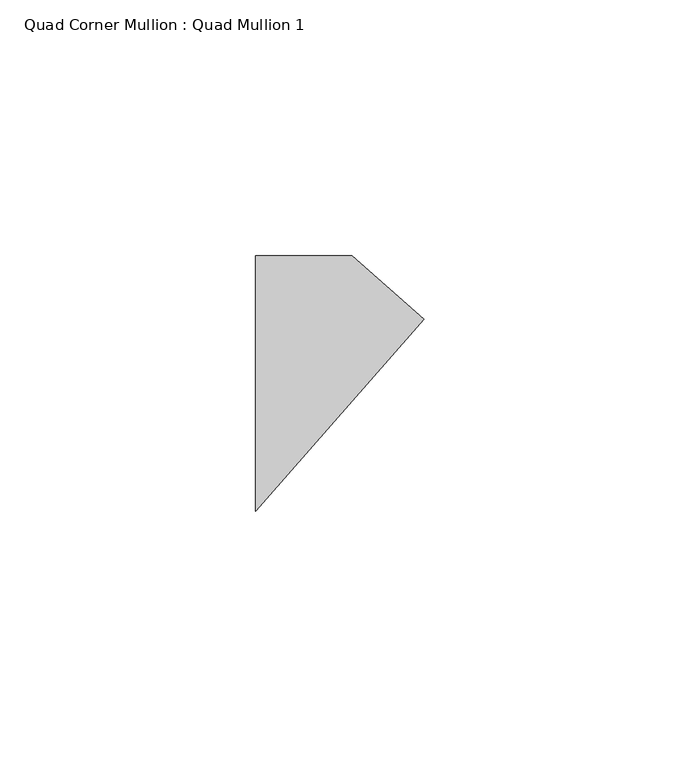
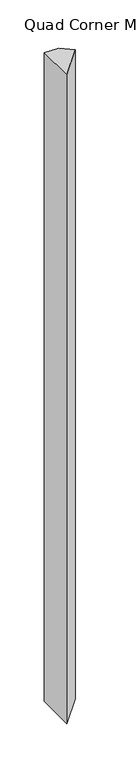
"""IFC4 building model written with IfcOpenShell, lengths in millimetres: member geometry, Quad Corner Mullion : Quad Mullion 1."""

from ifc_helpers import new_model, si_unit, frame, origin, place, context, project, spatial, polyline, outline, extrude, source, transform, mapped, element, save


def quad_corner_mullion_quad_mullion_1_33c8872f(model_context):
    return source(origin(), model_context, "Body", "SweptSolid", [
        extrude(outline(polyline([(23.5710612, 12.5734516), (-9.417357, -25.0), (-9.417357, 25.0), (9.417357, 25.0), (23.5710612, 12.5734516)])), frame((0.0, 0.0, -890.0), z_axis=(0.0, 0.0, 1.0), x_axis=(1.0, 0.0, 0.0)), (0.0, 0.0, 1.0), 890.0),
    ])


if __name__ == "__main__":
    model = new_model("IFC4")
    model_context = context("Model", 3, world=origin())
    ifc_project = project(units=[si_unit("LENGTHUNIT", "METRE", prefix="MILLI")], contexts=[model_context])
    site = spatial("IfcSite", under=ifc_project)
    building = spatial("IfcBuilding", under=site)
    placement = place(None, origin())
    quad_corner_mullion_quad_mullion_1_shape = quad_corner_mullion_quad_mullion_1_33c8872f(model_context)
    element("IfcMember", 1, ObjectType="Quad Corner Mullion : Quad Mullion 1", at=placement, inside=building, context=model_context, shape_type="MappedRepresentation", body=[
        mapped(quad_corner_mullion_quad_mullion_1_shape, transform((0.0, 0.0, 0.0), x_axis=(1.0, 0.0, 0.0), y_axis=(0.0, 1.0, 0.0), z_axis=(0.0, 0.0, 1.0))),
    ])
    save(model, "model.ifc")
